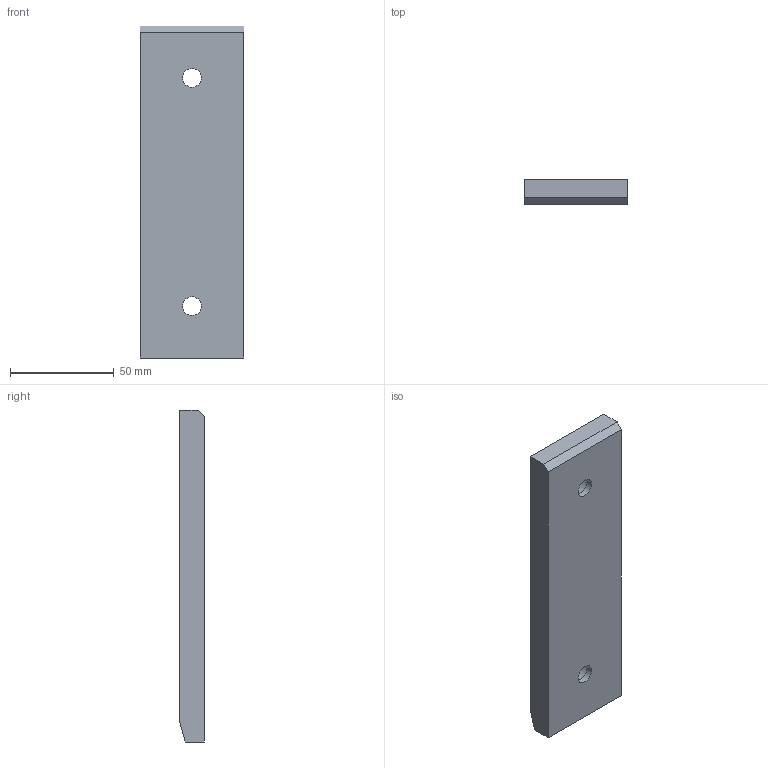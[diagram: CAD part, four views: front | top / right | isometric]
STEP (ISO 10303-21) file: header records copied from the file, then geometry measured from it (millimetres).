
FILE_DESCRIPTION (( 'STEP AP214' ), '1' );
FILE_NAME ('SW222-01-50x160.STEP', '2020-10-14T12:39:21', ( 'August' ), ( '' ), 'SwSTEP 2.0', 'SolidWorks 2018', '' );
FILE_SCHEMA (( 'AUTOMOTIVE_DESIGN' ));
Length unit declared in the file: millimetre
Products named in the file (1): SW222-01-50x160
Bounding box: 50 x 12 x 160 mm (x, y, z)
Volume: 78882.8 mm3; surface area: 27859.4 mm2
Topology: 1 solids, 1 shells, 134 faces, 275 edges, 182 vertices
Faces by surface type: cylinder 83, plane 47, cone 4
Entity records: 3912 total; most frequent: DIRECTION 715, CARTESIAN_POINT 592, ORIENTED_EDGE 550, AXIS2_PLACEMENT_3D 305, EDGE_CURVE 275, VERTEX_POINT 182, EDGE_LOOP 177, CIRCLE 170
